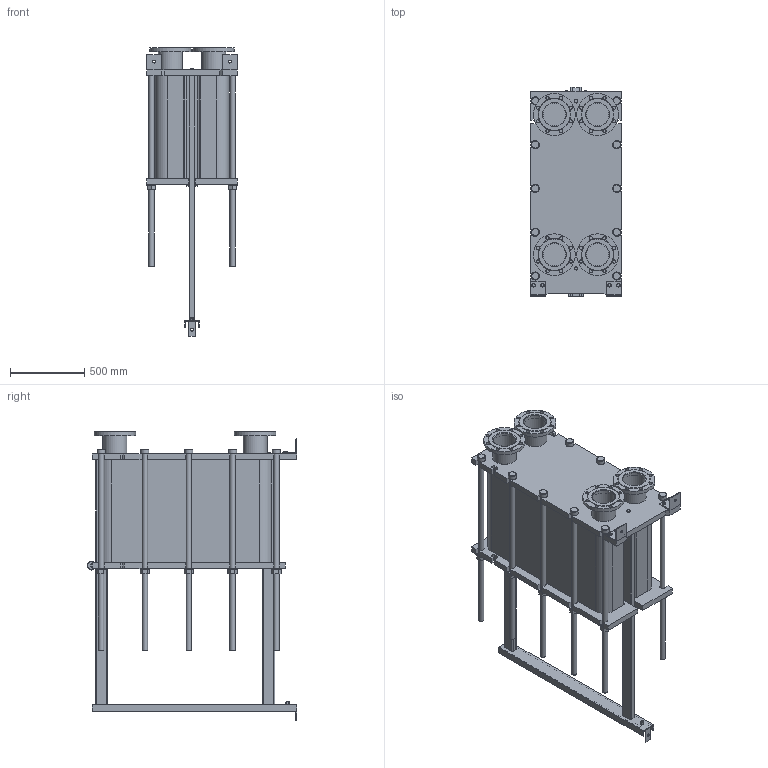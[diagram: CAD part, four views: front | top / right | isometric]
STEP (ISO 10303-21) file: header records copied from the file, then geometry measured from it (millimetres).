
FILE_DESCRIPTION(/* description */ (''),/* implementation_level */ '2;1');
FILE_NAME(/* name */ 'C:\Users\zhuro\Desktop\ENCO\TO\ЭН-041\ЭН-0,5-041-200-1.stp',/* time_stamp */ '2022-06-06T11:06:18+03:00',/* author */ ('zhuro'),/* organization */ (''),/* preprocessor_version */ 'ST-DEVELOPER v18.1',/* originating_system */ 'Autodesk Inventor 2022',/* authorisation */ '');
FILE_SCHEMA (('AUTOMOTIVE_DESIGN { 1 0 10303 214 3 1 1 }'));
Length unit declared in the file: millimetre
Products named in the file (1): ЭН-0,5-041-200-1
Bounding box: 610 x 1406.5 x 1940 mm (x, y, z)
Volume: 475582130.1 mm3; surface area: 11229429.1 mm2
Topology: 52 solids, 52 shells, 711 faces, 1696 edges, 1094 vertices
Faces by surface type: plane 487, cylinder 177, cone 41, torus 6
Full cylindrical faces by diameter (mm): 8 x4, 10 x2, 16 x8, 18 x3, 22 x32, 36 x24, 50 x1, 54 x10, 60 x12, 151 x4, 161 x8, 280 x4
Entity records: 22667 total; most frequent: CARTESIAN_POINT 5230, DIRECTION 3644, ORIENTED_EDGE 3392, EDGE_CURVE 1696, AXIS2_PLACEMENT_3D 1272, LINE 1100, VECTOR 1100, VERTEX_POINT 1094
